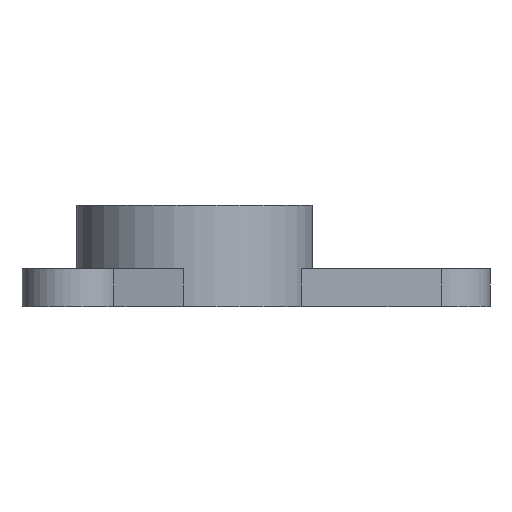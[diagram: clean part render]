
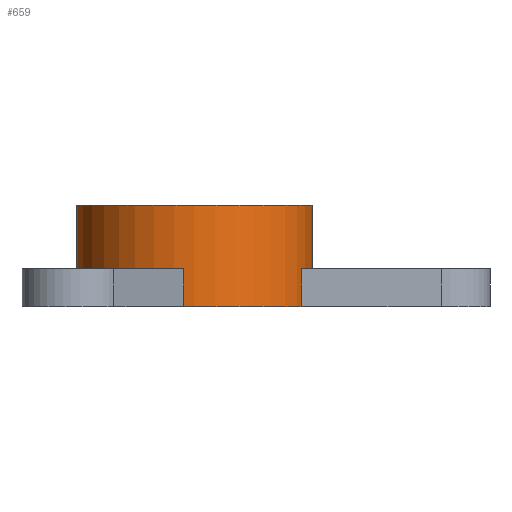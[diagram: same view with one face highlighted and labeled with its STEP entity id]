
A CAD part, front view. The second image highlights one B-rep face of the part: STEP entity #659.
In plain terms, the highlighted cylindrical face has radius 9.35 mm (diameter 18.7 mm), a full revolution.
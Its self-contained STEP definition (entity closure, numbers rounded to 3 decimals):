
#89=FACE_OUTER_BOUND('',#144,.T.);
#144=EDGE_LOOP('',(#564,#565,#566,#567));
#195=LINE('',#1147,#236);
#236=VECTOR('',#943,9.35);
#275=CIRCLE('',#755,9.35);
#276=CIRCLE('',#756,9.35);
#333=VERTEX_POINT('',#1144);
#334=VERTEX_POINT('',#1146);
#413=EDGE_CURVE('',#333,#333,#275,.T.);
#414=EDGE_CURVE('',#333,#334,#195,.T.);
#415=EDGE_CURVE('',#334,#334,#276,.T.);
#564=ORIENTED_EDGE('',*,*,#413,.F.);
#565=ORIENTED_EDGE('',*,*,#414,.T.);
#566=ORIENTED_EDGE('',*,*,#415,.T.);
#567=ORIENTED_EDGE('',*,*,#414,.F.);
#624=CYLINDRICAL_SURFACE('',#754,9.35);
#659=ADVANCED_FACE('',(#89),#624,.T.);
#754=AXIS2_PLACEMENT_3D('',#1143,#939,#940);
#755=AXIS2_PLACEMENT_3D('',#1145,#941,#942);
#756=AXIS2_PLACEMENT_3D('',#1148,#944,#945);
#939=DIRECTION('center_axis',(0.,0.,1.));
#940=DIRECTION('ref_axis',(1.,0.,0.));
#941=DIRECTION('center_axis',(0.,0.,1.));
#942=DIRECTION('ref_axis',(1.,0.,0.));
#943=DIRECTION('',(0.,0.,-1.));
#944=DIRECTION('center_axis',(0.,0.,1.));
#945=DIRECTION('ref_axis',(1.,0.,0.));
#1143=CARTESIAN_POINT('Origin',(-44.,24.,0.));
#1144=CARTESIAN_POINT('',(-53.35,24.,8.));
#1145=CARTESIAN_POINT('Origin',(-44.,24.,8.));
#1146=CARTESIAN_POINT('',(-53.35,24.,0.));
#1147=CARTESIAN_POINT('',(-53.35,24.,0.));
#1148=CARTESIAN_POINT('Origin',(-44.,24.,0.));
